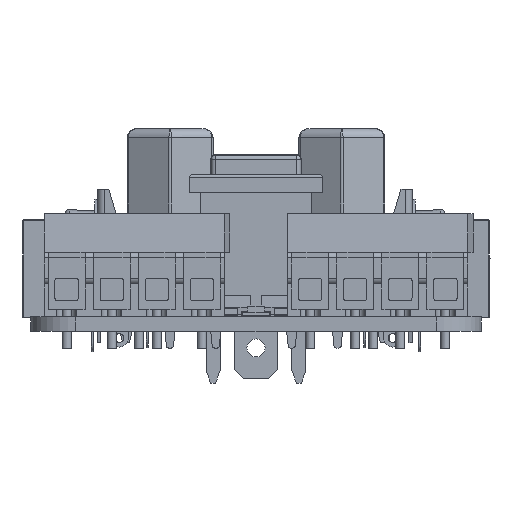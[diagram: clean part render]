
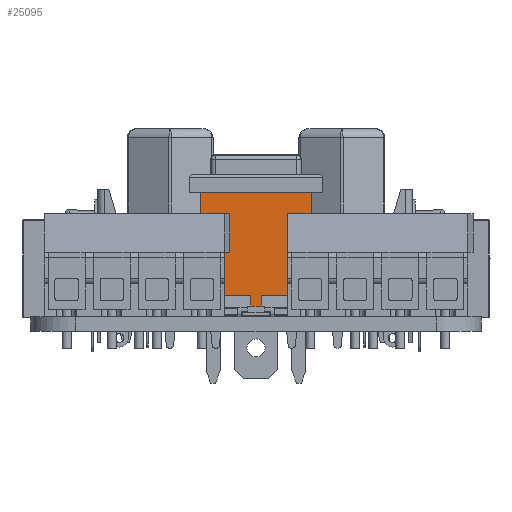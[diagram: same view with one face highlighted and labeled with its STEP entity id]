
A CAD part, front view. The second image highlights one B-rep face of the part: STEP entity #25095.
In plain terms, the highlighted planar face has unit normal (0, -1, 0) as drawn and (1, 0, 0) by its records, which use the part's own axes.
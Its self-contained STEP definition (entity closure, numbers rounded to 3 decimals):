
#24986 = VERTEX_POINT('',#24987);
#24987 = CARTESIAN_POINT('',(9.3,-6.2,13.7));
#24993 = EDGE_CURVE('',#24986,#24994,#24996,.T.);
#24994 = VERTEX_POINT('',#24995);
#24995 = CARTESIAN_POINT('',(9.3,6.2,13.7));
#24996 = LINE('',#24997,#24998);
#24997 = CARTESIAN_POINT('',(9.3,6.2,13.7));
#24998 = VECTOR('',#24999,1.);
#24999 = DIRECTION('',(0.,1.,0.));
#25076 = VERTEX_POINT('',#25077);
#25077 = CARTESIAN_POINT('',(9.3,6.2,0.));
#25085 = EDGE_CURVE('',#25076,#24994,#25086,.T.);
#25086 = LINE('',#25087,#25088);
#25087 = CARTESIAN_POINT('',(9.3,6.2,0.));
#25088 = VECTOR('',#25089,1.);
#25089 = DIRECTION('',(0.,0.,1.));
#25095 = ADVANCED_FACE('',(#25096),#25114,.T.);
#25096 = FACE_BOUND('',#25097,.T.);
#25097 = EDGE_LOOP('',(#25098,#25106,#25107,#25108));
#25098 = ORIENTED_EDGE('',*,*,#25099,.F.);
#25099 = EDGE_CURVE('',#25076,#25100,#25102,.T.);
#25100 = VERTEX_POINT('',#25101);
#25101 = CARTESIAN_POINT('',(9.3,-6.2,0.));
#25102 = LINE('',#25103,#25104);
#25103 = CARTESIAN_POINT('',(9.3,6.2,0.));
#25104 = VECTOR('',#25105,1.);
#25105 = DIRECTION('',(0.,-1.,0.));
#25106 = ORIENTED_EDGE('',*,*,#25085,.T.);
#25107 = ORIENTED_EDGE('',*,*,#24993,.F.);
#25108 = ORIENTED_EDGE('',*,*,#25109,.F.);
#25109 = EDGE_CURVE('',#25100,#24986,#25110,.T.);
#25110 = LINE('',#25111,#25112);
#25111 = CARTESIAN_POINT('',(9.3,-6.2,0.));
#25112 = VECTOR('',#25113,1.);
#25113 = DIRECTION('',(0.,0.,1.));
#25114 = PLANE('',#25115);
#25115 = AXIS2_PLACEMENT_3D('',#25116,#25117,#25118);
#25116 = CARTESIAN_POINT('',(9.3,-6.2,0.));
#25117 = DIRECTION('',(1.,0.,0.));
#25118 = DIRECTION('',(0.,1.,0.));
